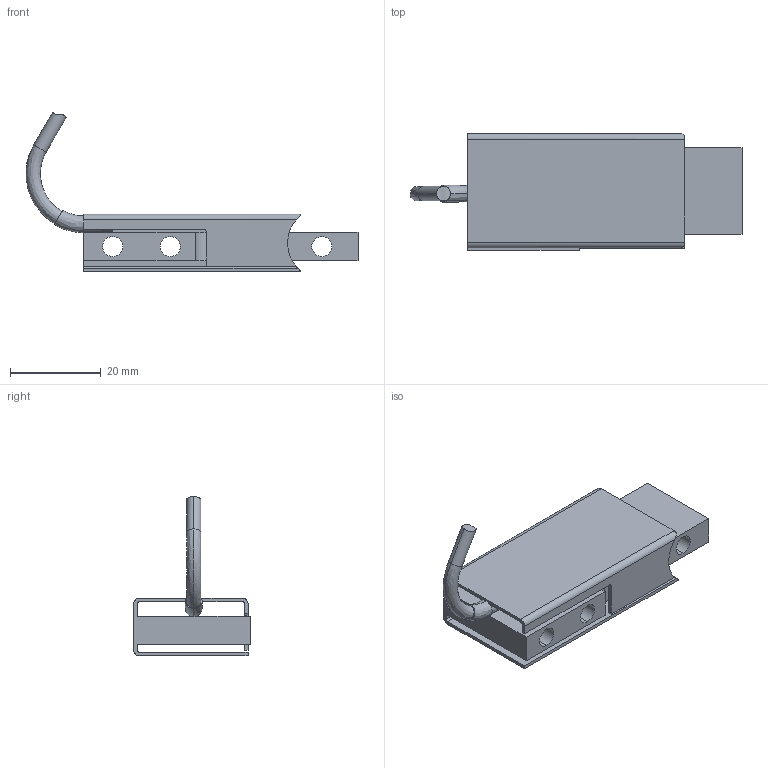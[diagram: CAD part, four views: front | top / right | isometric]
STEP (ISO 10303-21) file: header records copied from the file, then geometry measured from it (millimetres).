
FILE_DESCRIPTION (( 'STEP AP203' ), '1' );
FILE_NAME ('Part3.STEP', '2013-09-17T23:32:32', ( '' ), ( '' ), 'SwSTEP 2.0', 'SolidWorks 2013', '' );
FILE_SCHEMA (( 'CONFIG_CONTROL_DESIGN' ));
Length unit declared in the file: inch
Products named in the file (1): Part3
Bounding box: 73.02 x 25.65 x 35.16 mm (x, y, z)
Volume: 9849.4 mm3; surface area: 11026.4 mm2
Topology: 1 solids, 1 shells, 58 faces, 159 edges, 104 vertices
Faces by surface type: plane 27, cylinder 26, bspline 5
Entity records: 2170 total; most frequent: CARTESIAN_POINT 621, ORIENTED_EDGE 318, DIRECTION 297, EDGE_CURVE 159, VERTEX_POINT 104, AXIS2_PLACEMENT_3D 104, LINE 89, VECTOR 89
